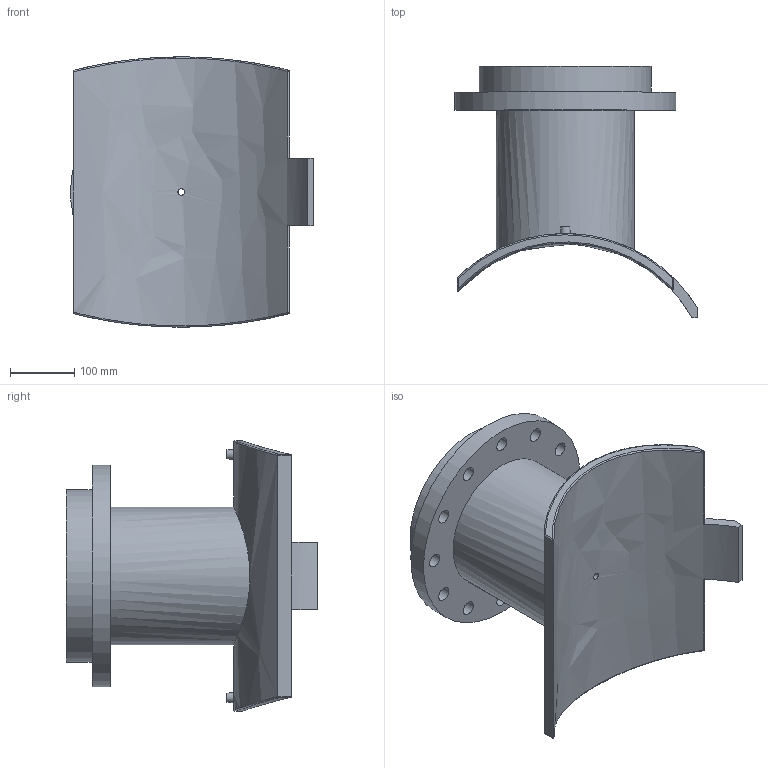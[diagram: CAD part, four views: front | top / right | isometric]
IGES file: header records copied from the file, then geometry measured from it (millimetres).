
Global section: file name: 495903450200TN; native system: Autodesk Inventor 2019; preprocessor: unknown; author: KIM; date: 20240403.210056; units: millimetre
Bounding box: 376.99 x 390.45 x 420 mm (x, y, z)
Volume: 8777421.7 mm3; surface area: 826241.9 mm2
Topology: 1 solids, 1 shells, 62 faces, 163 edges, 126 vertices
Faces by surface type: bspline 62
